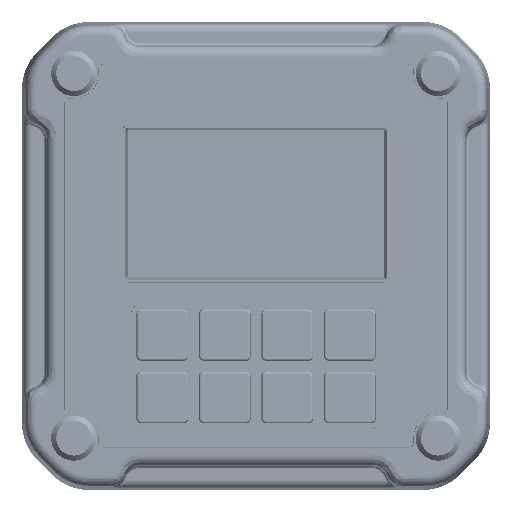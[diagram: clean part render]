
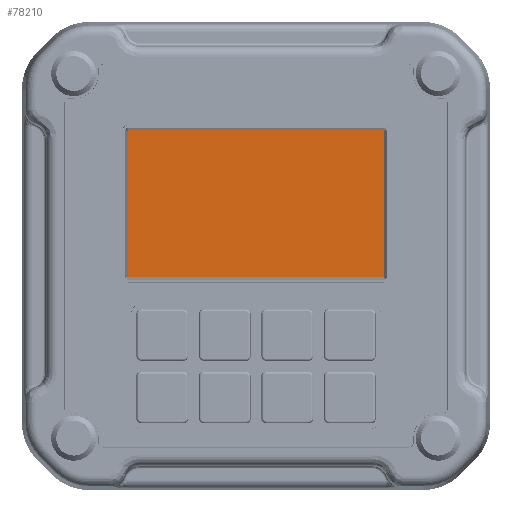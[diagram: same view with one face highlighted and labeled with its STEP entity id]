
A CAD part, top view. The second image highlights one B-rep face of the part: STEP entity #78210.
In plain terms, the highlighted planar face has unit normal (0, 0, 1).
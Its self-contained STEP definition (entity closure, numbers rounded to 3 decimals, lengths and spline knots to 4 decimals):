
#2935=PLANE('',#83781);
#6032=FACE_OUTER_BOUND('',#10804,.T.);
#10804=EDGE_LOOP('',(#55733,#55734,#55735,#55736,#55737,#55738,#55739,#55740));
#15606=CIRCLE('',#83767,0.0036);
#15608=CIRCLE('',#83771,0.0036);
#15610=CIRCLE('',#83775,0.0036);
#15612=CIRCLE('',#83779,0.0036);
#22958=LINE('',#124123,#27517);
#22963=LINE('',#124137,#27522);
#22967=LINE('',#124149,#27526);
#22971=LINE('',#124161,#27530);
#27517=VECTOR('',#93067,0.3937);
#27522=VECTOR('',#93080,0.3937);
#27526=VECTOR('',#93092,0.3937);
#27530=VECTOR('',#93104,0.3937);
#32512=VERTEX_POINT('',#124121);
#32513=VERTEX_POINT('',#124122);
#32516=VERTEX_POINT('',#124130);
#32518=VERTEX_POINT('',#124136);
#32520=VERTEX_POINT('',#124142);
#32522=VERTEX_POINT('',#124148);
#32524=VERTEX_POINT('',#124154);
#32526=VERTEX_POINT('',#124160);
#41301=EDGE_CURVE('',#32512,#32513,#22958,.T.);
#41305=EDGE_CURVE('',#32513,#32516,#15606,.T.);
#41308=EDGE_CURVE('',#32516,#32518,#22963,.T.);
#41311=EDGE_CURVE('',#32518,#32520,#15608,.T.);
#41314=EDGE_CURVE('',#32520,#32522,#22967,.T.);
#41317=EDGE_CURVE('',#32522,#32524,#15610,.T.);
#41320=EDGE_CURVE('',#32524,#32526,#22971,.T.);
#41323=EDGE_CURVE('',#32526,#32512,#15612,.T.);
#55733=ORIENTED_EDGE('',*,*,#41301,.T.);
#55734=ORIENTED_EDGE('',*,*,#41305,.T.);
#55735=ORIENTED_EDGE('',*,*,#41308,.T.);
#55736=ORIENTED_EDGE('',*,*,#41311,.T.);
#55737=ORIENTED_EDGE('',*,*,#41314,.T.);
#55738=ORIENTED_EDGE('',*,*,#41317,.T.);
#55739=ORIENTED_EDGE('',*,*,#41320,.T.);
#55740=ORIENTED_EDGE('',*,*,#41323,.T.);
#78210=ADVANCED_FACE('',(#6032),#2935,.T.);
#83767=AXIS2_PLACEMENT_3D('',#124131,#93073,#93074);
#83771=AXIS2_PLACEMENT_3D('',#124143,#93085,#93086);
#83775=AXIS2_PLACEMENT_3D('',#124155,#93097,#93098);
#83779=AXIS2_PLACEMENT_3D('',#124166,#93109,#93110);
#83781=AXIS2_PLACEMENT_3D('',#124168,#93113,#93114);
#93067=DIRECTION('',(0.,-1.,0.));
#93073=DIRECTION('center_axis',(0.,0.,1.));
#93074=DIRECTION('ref_axis',(1.,0.,0.));
#93080=DIRECTION('',(1.,0.,0.));
#93085=DIRECTION('center_axis',(0.,0.,1.));
#93086=DIRECTION('ref_axis',(0.,1.,0.));
#93092=DIRECTION('',(0.,1.,0.));
#93097=DIRECTION('center_axis',(0.,0.,1.));
#93098=DIRECTION('ref_axis',(-1.,0.,0.));
#93104=DIRECTION('',(-1.,0.,0.));
#93109=DIRECTION('center_axis',(0.,0.,1.));
#93110=DIRECTION('ref_axis',(0.,-1.,0.));
#93113=DIRECTION('center_axis',(0.,0.,1.));
#93114=DIRECTION('ref_axis',(1.,0.,0.));
#124121=CARTESIAN_POINT('',(-2.4419,-1.8156,0.1602));
#124122=CARTESIAN_POINT('',(-2.4419,-3.2227,0.1602));
#124123=CARTESIAN_POINT('',(-2.4419,-3.2227,0.1602));
#124130=CARTESIAN_POINT('',(-2.4383,-3.2263,0.1602));
#124131=CARTESIAN_POINT('Origin',(-2.4383,-3.2227,0.1602));
#124136=CARTESIAN_POINT('',(0.0207,-3.2263,0.1602));
#124137=CARTESIAN_POINT('',(0.0207,-3.2263,0.1602));
#124142=CARTESIAN_POINT('',(0.0243,-3.2227,0.1602));
#124143=CARTESIAN_POINT('Origin',(0.0207,-3.2227,
0.1602));
#124148=CARTESIAN_POINT('',(0.0243,-1.8156,0.1602));
#124149=CARTESIAN_POINT('',(0.0243,-1.8156,0.1602));
#124154=CARTESIAN_POINT('',(0.0207,-1.8121,0.1602));
#124155=CARTESIAN_POINT('Origin',(0.0207,-1.8156,
0.1602));
#124160=CARTESIAN_POINT('',(-2.4383,-1.8121,0.1602));
#124161=CARTESIAN_POINT('',(-2.4383,-1.8121,0.1602));
#124166=CARTESIAN_POINT('Origin',(-2.4383,-1.8156,0.1602));
#124168=CARTESIAN_POINT('Origin',(-1.2088,-2.5192,0.1602));
